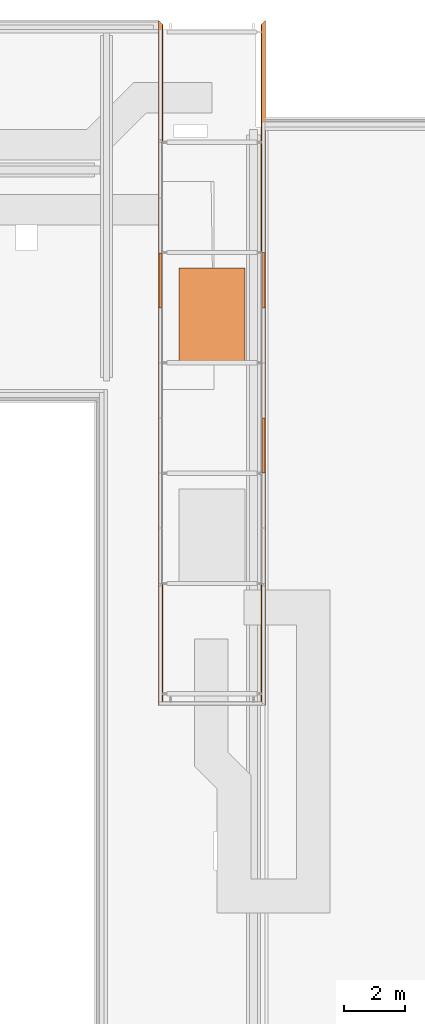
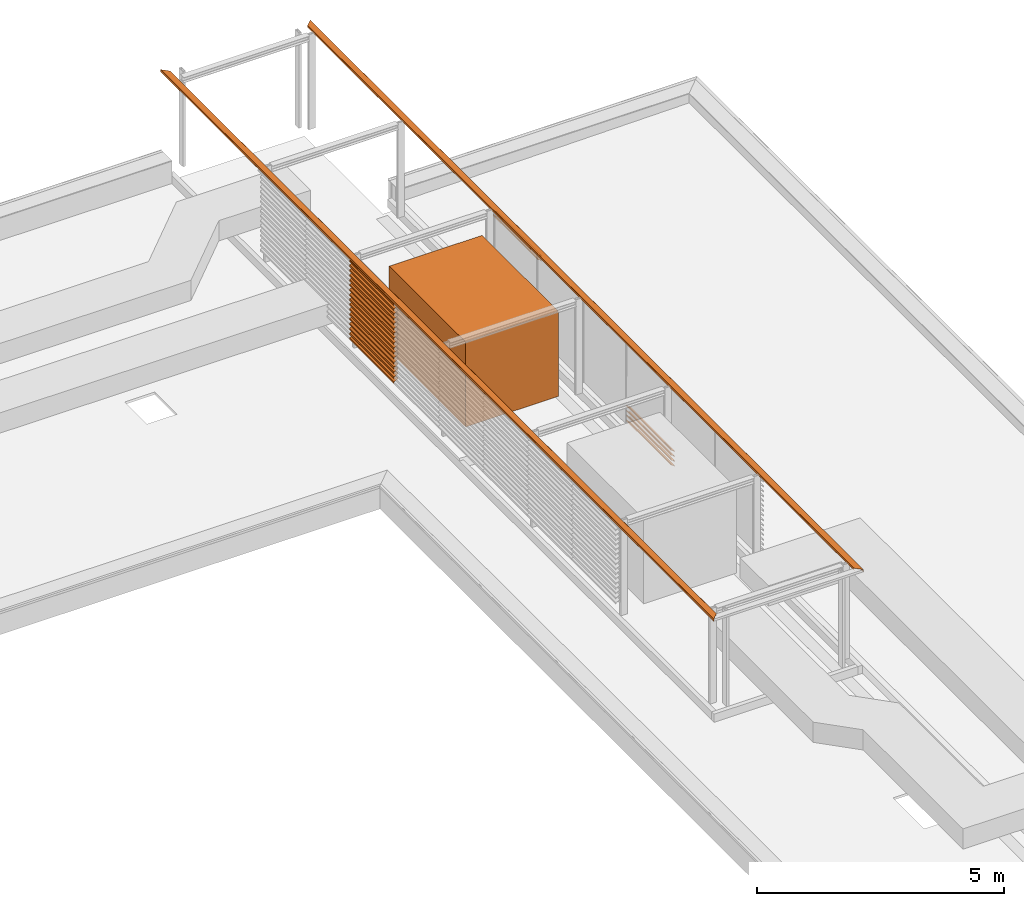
# One storey, part 25 of 32: 26 proxies.
"""IFC2X3 building model written with IfcOpenShell, lengths in millimetres."""

import ifcopenshell
import ifcopenshell.guid

model = None  # the IFC model being written
_history = None  # IfcOwnerHistory: only IFC2X3 demands one
_inside = {}  # id of a spatial element -> (the spatial element, [elements in it])
_under = {}  # id of a project, library or spatial element -> (it, [spatial elements below it])
_declared = {}  # id of a project -> (the project, [libraries it declares])
_typed = {}  # id of a type object -> (the type object, [elements of that type])
_made_of = {}  # id of a material, layer set ... -> (it, [elements and type objects made of it])


def new_model(schema):
    """Start an empty IFC model of exactly this schema.

    Asked for "IFC4X3", IfcOpenShell would pick the latest addendum, in which some entities
    have other attributes; the version numbers below select the first issue.
    IFC2X3 requires an IfcOwnerHistory on every rooted entity: one is made here for all.
    """
    global model, _history
    if schema == "IFC4X3":
        model = ifcopenshell.file(schema_version=(4, 3, 0, 0))
    else:
        model = ifcopenshell.file(schema=schema)
    _inside.clear()
    _under.clear()
    _declared.clear()
    _typed.clear()
    _made_of.clear()
    _history = None
    if model.schema == "IFC2X3":
        org = make("IfcOrganization", Name="unknown")
        user = make(
            "IfcPersonAndOrganization",
            ThePerson=make("IfcPerson", FamilyName="unknown"),
            TheOrganization=org,
        )
        app = make(
            "IfcApplication",
            ApplicationDeveloper=org,
            Version="unknown",
            ApplicationFullName="unknown",
            ApplicationIdentifier="unknown",
        )
        _history = make(
            "IfcOwnerHistory",
            OwningUser=user,
            OwningApplication=app,
            ChangeAction="ADDED",
            CreationDate=0,
        )
    return model


def make(cls, **values):
    """One entity of the class cls with the attributes given. An attribute that is None is left unset."""
    return model.create_entity(
        cls, **{name: value for name, value in values.items() if value is not None}
    )


def entity(cls, *values):
    """Any entity or typed value of the class cls, its attributes in the order of the schema. None: left unset."""
    e = model.create_entity(cls)
    for i, value in enumerate(values):
        if value is not None:
            e[i] = value
    return e


def rooted(cls, **values):
    """An entity with a GlobalId (a new one), such as an element, a storey or a relation."""
    return make(cls, GlobalId=ifcopenshell.guid.new(), OwnerHistory=_history, **values)


def si_unit(unit_type, name, prefix=None):
    """IfcSIUnit, for example si_unit("LENGTHUNIT", "METRE", prefix="MILLI")."""
    return make("IfcSIUnit", UnitType=unit_type, Prefix=prefix, Name=name)


def converted_unit(unit_type, name, factor, base, dimensions=None, offset=None):
    """IfcConversionBasedUnit, such as the inch: factor (a typed value) times the base unit."""
    return make(
        "IfcConversionBasedUnit"
        if offset is None
        else "IfcConversionBasedUnitWithOffset",
        ConversionOffset=offset,
        Dimensions=None
        if dimensions is None
        else entity("IfcDimensionalExponents", *dimensions),
        UnitType=unit_type,
        Name=name,
        ConversionFactor=make(
            "IfcMeasureWithUnit", ValueComponent=factor, UnitComponent=base
        ),
    )


def derived_unit(unit_type, elements):
    """IfcDerivedUnit: a product of units, each with its exponent."""
    return make(
        "IfcDerivedUnit",
        Elements=[
            make("IfcDerivedUnitElement", Unit=unit, Exponent=power)
            for unit, power in elements
        ],
        UnitType=unit_type,
    )


def assignment(units):
    """IfcUnitAssignment: the units of a project."""
    return None if units is None else make("IfcUnitAssignment", Units=units)


def point(xyz):
    """IfcCartesianPoint."""
    return None if xyz is None else make("IfcCartesianPoint", Coordinates=xyz)


def direction(xyz):
    """IfcDirection."""
    return None if xyz is None else make("IfcDirection", DirectionRatios=xyz)


def frame(location, z_axis=None, x_axis=None):
    """IfcAxis2Placement3D, a coordinate frame: its origin and axes. An axis left out is left unset."""
    return make(
        "IfcAxis2Placement3D",
        Location=point(location),
        Axis=direction(z_axis),
        RefDirection=direction(x_axis),
    )


def frame_2d(location, x_axis=None):
    """IfcAxis2Placement2D, a coordinate frame in the plane: its origin and x axis."""
    return make(
        "IfcAxis2Placement2D", Location=point(location), RefDirection=direction(x_axis)
    )


def origin():
    """The frame at (0, 0, 0) with its axes left unset."""
    return frame((0.0, 0.0, 0.0))


def place(relative_to, where):
    """IfcLocalPlacement: puts the frame where relative to a parent placement (None: the world)."""
    return make(
        "IfcLocalPlacement", PlacementRelTo=relative_to, RelativePlacement=where
    )


def context(
    kind, dimensions, precision=None, world=None, true_north=None, identifier=None
):
    """IfcGeometricRepresentationContext, for example the 3D "Model" context."""
    return make(
        "IfcGeometricRepresentationContext",
        ContextIdentifier=identifier,
        ContextType=kind,
        CoordinateSpaceDimension=dimensions,
        Precision=precision,
        WorldCoordinateSystem=world,
        TrueNorth=true_north,
    )


def subcontext(parent, identifier, kind, view, scale=None):
    """IfcGeometricRepresentationSubContext, for example "Body" below "Model"."""
    return make(
        "IfcGeometricRepresentationSubContext",
        ContextIdentifier=identifier,
        ContextType=kind,
        ParentContext=parent,
        TargetScale=scale,
        TargetView=view,
    )


def project(units=None, contexts=None):
    """IfcProject with its units and contexts."""
    return rooted(
        "IfcProject",
        Name="project",
        RepresentationContexts=contexts,
        UnitsInContext=assignment(units),
    )


def spatial(cls, under=None, at=None, **own):
    """A site, building, storey or space (cls), placed at a placement, below another one or the project."""
    s = rooted(cls, ObjectPlacement=at, **own)
    if under is not None:
        _under.setdefault(under.id(), (under, []))[1].append(s)
    return s


def polyline(points):
    """IfcPolyline through the points."""
    return make("IfcPolyline", Points=[point(p) for p in points])


def profile(cls, at=None, kind="AREA", **sizes):
    """A parametric profile (cls). Its sizes go by their IFC names, for example OverallWidth=200.0."""
    return make(cls, ProfileType=kind, Position=at, **sizes)


def rectangle(**sizes):
    """IfcRectangleProfileDef."""
    return profile("IfcRectangleProfileDef", **sizes)


def outline(outer, holes=None, kind="AREA"):
    """IfcArbitraryClosedProfileDef: a profile drawn as a closed curve; with holes, ...WithVoids."""
    if holes is None:
        return make("IfcArbitraryClosedProfileDef", ProfileType=kind, OuterCurve=outer)
    return make(
        "IfcArbitraryProfileDefWithVoids",
        ProfileType=kind,
        OuterCurve=outer,
        InnerCurves=holes,
    )


def extrude(swept, where, along, depth):
    """IfcExtrudedAreaSolid: the profile swept, set in the frame where, extruded along a direction by depth."""
    return make(
        "IfcExtrudedAreaSolid",
        SweptArea=swept,
        Position=where,
        ExtrudedDirection=direction(along),
        Depth=depth,
    )


def faces_of(points, faces, orient=None, outer=None):
    """IfcFace entities. A face is a list of loops; a loop is a list of indices into points, from 0.

    orient and outer hold one flag for each loop. By default every Orientation is true, the
    first loop of a face is its IfcFaceOuterBound and the others are IfcFaceBound.
    """
    made = []
    for i, loops in enumerate(faces):
        bounds = []
        for j, loop in enumerate(loops):
            is_outer = j == 0 if outer is None else outer[i][j]
            bounds.append(
                make(
                    "IfcFaceOuterBound" if is_outer else "IfcFaceBound",
                    Bound=make("IfcPolyLoop", Polygon=[points[k] for k in loop]),
                    Orientation=True if orient is None else orient[i][j],
                )
            )
        made.append(make("IfcFace", Bounds=bounds))
    return made


def faceted_brep(points, faces, orient=None, outer=None, voids=None):
    """IfcFacetedBrep: a solid bounded by flat faces; with voids (closed shells), ...WithVoids."""
    shared = [point(p) for p in points]
    hull = make("IfcClosedShell", CfsFaces=faces_of(shared, faces, orient, outer))
    if voids is None:
        return make("IfcFacetedBrep", Outer=hull)
    return make(
        "IfcFacetedBrepWithVoids",
        Outer=hull,
        Voids=[
            make(cls, CfsFaces=faces_of(shared, fs, o, b)) for cls, fs, o, b in voids
        ],
    )


def shape(context_of_items, identifier, shape_type, items):
    """IfcShapeRepresentation: the items that make up one representation, for example the "Body"."""
    return make(
        "IfcShapeRepresentation",
        ContextOfItems=context_of_items,
        RepresentationIdentifier=identifier,
        RepresentationType=shape_type,
        Items=items,
    )


def source(mapping_origin, context_of_items, identifier, shape_type, items):
    """IfcRepresentationMap: a shape defined once, which mapped items show again and again."""
    return make(
        "IfcRepresentationMap",
        MappingOrigin=mapping_origin,
        MappedRepresentation=shape(context_of_items, identifier, shape_type, items),
    )


def transform(
    local_origin,
    x_axis=None,
    y_axis=None,
    z_axis=None,
    scale=None,
    scale2=None,
    scale3=None,
    uniform=True,
):
    """IfcCartesianTransformationOperator3D, or its non-uniform kind. x_axis, y_axis, z_axis: its Axis1, 2, 3."""
    if uniform:
        return make(
            "IfcCartesianTransformationOperator3D",
            Axis1=direction(x_axis),
            Axis2=direction(y_axis),
            LocalOrigin=point(local_origin),
            Scale=scale,
            Axis3=direction(z_axis),
        )
    return make(
        "IfcCartesianTransformationOperator3DnonUniform",
        Axis1=direction(x_axis),
        Axis2=direction(y_axis),
        LocalOrigin=point(local_origin),
        Scale=scale,
        Axis3=direction(z_axis),
        Scale2=scale2,
        Scale3=scale3,
    )


def mapped(mapping_source, mapping_target):
    """IfcMappedItem: shows the shape of a source again, moved by a transform."""
    return make(
        "IfcMappedItem", MappingSource=mapping_source, MappingTarget=mapping_target
    )


def material(Name=None, Category=None):
    """IfcMaterial."""
    return make("IfcMaterial", Name=Name, Category=Category)


def made_of(thing, what):
    """Note that an element or type object is made of a material, layer set ...; save() writes the relation."""
    if what is not None:
        _made_of.setdefault(what.id(), (what, []))[1].append(thing)
    return thing


def type_object(cls, material=None, **own):
    """A type object (cls), such as IfcWallType, which elements share."""
    return made_of(rooted(cls, **own), material)


def type_shapes(of_type, sources):
    """Give a type object the sources (RepresentationMaps) that its elements show as mapped items."""
    of_type.RepresentationMaps = sources


def element(
    cls,
    number,
    at=None,
    inside=None,
    cuts=None,
    type_object=None,
    material=None,
    context=None,
    identifier="Body",
    shape_type=None,
    held_by="IfcProductDefinitionShape",
    body=None,
    shapes=None,
    **own,
):
    """One element of the class cls, such as IfcWall. Its Tag is "e" and its number.

    at: its placement. inside: the storey or other place that contains it. cuts: it is an
    opening in that element (IfcRelVoidsElement). A single representation is given by context,
    identifier, shape_type and body (its items); several are given by shapes. held_by: the class
    of the entity that holds the representations. save() writes the other relations.
    """
    e = rooted(cls, Tag="e%d" % number, ObjectPlacement=at, **own)
    if body is not None:
        shapes = [shape(context, identifier, shape_type, body)]
    if shapes is not None:
        e.Representation = make(held_by, Representations=shapes)
    if inside is not None:
        _inside.setdefault(inside.id(), (inside, []))[1].append(e)
    if cuts is not None:
        rooted(
            "IfcRelVoidsElement", RelatingBuildingElement=cuts, RelatedOpeningElement=e
        )
    if type_object is not None:
        _typed.setdefault(type_object.id(), (type_object, []))[1].append(e)
    return made_of(e, material)


def aggregate(whole, parts):
    """IfcRelAggregates: a whole, such as a stair, and the parts it consists of."""
    return rooted("IfcRelAggregates", RelatingObject=whole, RelatedObjects=parts)


def save(model, path):
    """Write the relations noted so far, then the file.

    IfcRelAggregates (storeys below a building ...), IfcRelContainedInSpatialStructure (elements
    in a storey), IfcRelDefinesByType, IfcRelAssociatesMaterial and IfcRelDeclares: one each for
    every whole, place, type object, material and project.
    """
    for whole, parts in _under.values():
        aggregate(whole, parts)
    for where, things in _inside.values():
        rooted(
            "IfcRelContainedInSpatialStructure",
            RelatedElements=things,
            RelatingStructure=where,
        )
    for kind, things in _typed.values():
        rooted("IfcRelDefinesByType", RelatedObjects=things, RelatingType=kind)
    for what, things in _made_of.values():
        rooted("IfcRelAssociatesMaterial", RelatedObjects=things, RelatingMaterial=what)
    for by, libraries in _declared.values():
        rooted("IfcRelDeclares", RelatingContext=by, RelatedDefinitions=libraries)
    model.write(path)


model = new_model("IFC2X3")

# Units and contexts
model_context = context("Model", 3, precision=0.01, world=origin(), true_north=direction((6.123031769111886e-17, 1.0)))
body_context = subcontext(model_context, "Body", "Model", "MODEL_VIEW")
ifc_project = project(units=[si_unit("LENGTHUNIT", "METRE", prefix="MILLI"), si_unit("AREAUNIT", "SQUARE_METRE"), si_unit("VOLUMEUNIT", "CUBIC_METRE"), converted_unit("PLANEANGLEUNIT", "DEGREE", entity("IfcRatioMeasure", 0.017453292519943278), si_unit("PLANEANGLEUNIT", "RADIAN"), dimensions=[0, 0, 0, 0, 0, 0, 0]), si_unit("MASSUNIT", "GRAM", prefix="KILO"), derived_unit("MASSDENSITYUNIT", [(si_unit("MASSUNIT", "GRAM", prefix="KILO"), 1), (si_unit("LENGTHUNIT", "METRE"), -3)]), derived_unit("IONCONCENTRATIONUNIT", [(si_unit("MASSUNIT", "GRAM", prefix="KILO"), 1), (si_unit("LENGTHUNIT", "METRE"), -3)]), derived_unit("MOMENTOFINERTIAUNIT", [(si_unit("LENGTHUNIT", "METRE"), 4)]), si_unit("TIMEUNIT", "SECOND"), si_unit("FREQUENCYUNIT", "HERTZ"), si_unit("THERMODYNAMICTEMPERATUREUNIT", "DEGREE_CELSIUS"), derived_unit("THERMALTRANSMITTANCEUNIT", [(si_unit("MASSUNIT", "GRAM", prefix="KILO"), 1), (si_unit("THERMODYNAMICTEMPERATUREUNIT", "KELVIN"), -1), (si_unit("TIMEUNIT", "SECOND"), -3)]), derived_unit("THERMALCONDUCTANCEUNIT", [(si_unit("MASSUNIT", "GRAM", prefix="KILO"), 1), (si_unit("THERMODYNAMICTEMPERATUREUNIT", "KELVIN"), -1), (si_unit("TIMEUNIT", "SECOND"), -3), (si_unit("LENGTHUNIT", "METRE"), 1)]), derived_unit("VOLUMETRICFLOWRATEUNIT", [(si_unit("LENGTHUNIT", "METRE"), 3), (si_unit("TIMEUNIT", "SECOND"), -1)]), derived_unit("MASSFLOWRATEUNIT", [(si_unit("MASSUNIT", "GRAM", prefix="KILO"), 1), (si_unit("TIMEUNIT", "SECOND"), -1)]), derived_unit("ROTATIONALFREQUENCYUNIT", [(si_unit("TIMEUNIT", "SECOND"), -1)]), si_unit("ELECTRICCURRENTUNIT", "AMPERE"), si_unit("ELECTRICVOLTAGEUNIT", "VOLT"), si_unit("POWERUNIT", "WATT"), si_unit("FORCEUNIT", "NEWTON", prefix="KILO"), si_unit("ILLUMINANCEUNIT", "LUX"), si_unit("LUMINOUSFLUXUNIT", "LUMEN"), si_unit("LUMINOUSINTENSITYUNIT", "CANDELA"), derived_unit("USERDEFINED", [(si_unit("MASSUNIT", "GRAM", prefix="KILO"), -1), (si_unit("LENGTHUNIT", "METRE"), -2), (si_unit("TIMEUNIT", "SECOND"), 3), (si_unit("LUMINOUSFLUXUNIT", "LUMEN"), 1)]), derived_unit("USERDEFINED", [(si_unit("MASSUNIT", "GRAM", prefix="KILO"), 1), (si_unit("TIMEUNIT", "SECOND"), -3), (si_unit("LENGTHUNIT", "METRE"), 3), (si_unit("ELECTRICCURRENTUNIT", "AMPERE"), -2)]), derived_unit("SOUNDPOWERUNIT", [(si_unit("MASSUNIT", "GRAM", prefix="KILO"), 1), (si_unit("TIMEUNIT", "SECOND"), -3), (si_unit("LENGTHUNIT", "METRE"), 2)]), derived_unit("SOUNDPRESSUREUNIT", [(si_unit("MASSUNIT", "GRAM", prefix="KILO"), 1), (si_unit("LENGTHUNIT", "METRE"), -1), (si_unit("TIMEUNIT", "SECOND"), -2)]), derived_unit("LINEARVELOCITYUNIT", [(si_unit("LENGTHUNIT", "METRE"), 1), (si_unit("TIMEUNIT", "SECOND"), -1)]), si_unit("PRESSUREUNIT", "PASCAL"), derived_unit("USERDEFINED", [(si_unit("MASSUNIT", "GRAM", prefix="KILO"), 1), (si_unit("LENGTHUNIT", "METRE"), -2), (si_unit("TIMEUNIT", "SECOND"), -2)]), derived_unit("LINEARFORCEUNIT", [(si_unit("MASSUNIT", "GRAM", prefix="KILO"), 1), (si_unit("TIMEUNIT", "SECOND"), -2)]), derived_unit("PLANARFORCEUNIT", [(si_unit("MASSUNIT", "GRAM", prefix="KILO"), 1), (si_unit("LENGTHUNIT", "METRE"), -1), (si_unit("TIMEUNIT", "SECOND"), -2)]), derived_unit("SPECIFICHEATCAPACITYUNIT", [(si_unit("THERMODYNAMICTEMPERATUREUNIT", "KELVIN"), -1), (si_unit("LENGTHUNIT", "METRE"), 2), (si_unit("TIMEUNIT", "SECOND"), -2)]), derived_unit("HEATINGVALUEUNIT", [(si_unit("LENGTHUNIT", "METRE"), 2), (si_unit("TIMEUNIT", "SECOND"), -2)]), derived_unit("VAPORPERMEABILITYUNIT", [(si_unit("LENGTHUNIT", "METRE"), -1), (si_unit("TIMEUNIT", "SECOND"), 1)]), derived_unit("DYNAMICVISCOSITYUNIT", [(si_unit("MASSUNIT", "GRAM", prefix="KILO"), 1), (si_unit("TIMEUNIT", "SECOND"), -1), (si_unit("LENGTHUNIT", "METRE"), -1)]), derived_unit("THERMALEXPANSIONCOEFFICIENTUNIT", [(si_unit("THERMODYNAMICTEMPERATUREUNIT", "KELVIN"), -1)]), derived_unit("MODULUSOFELASTICITYUNIT", [(si_unit("MASSUNIT", "GRAM", prefix="KILO"), 1), (si_unit("LENGTHUNIT", "METRE"), -1), (si_unit("TIMEUNIT", "SECOND"), -2)]), derived_unit("ISOTHERMALMOISTURECAPACITYUNIT", [(si_unit("LENGTHUNIT", "METRE"), 3), (si_unit("MASSUNIT", "GRAM", prefix="KILO"), -1)]), derived_unit("MOISTUREDIFFUSIVITYUNIT", [(si_unit("TIMEUNIT", "SECOND"), -1), (si_unit("LENGTHUNIT", "METRE"), 2)])], contexts=[model_context])

# Site, building, storey
site_placement = place(None, frame((0.0, 300.0, 0.0)))
site = spatial("IfcSite", under=ifc_project, at=site_placement, Name="<Kadastrale nummers>", CompositionType="ELEMENT")
building_placement = place(site_placement, origin())
building = spatial("IfcBuilding", under=site, at=building_placement, CompositionType="ELEMENT")
storey_placement = place(building_placement, frame((0.0, 0.0, 7150.000035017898)))
storey = spatial("IfcBuildingStorey", under=building, at=storey_placement, Name="02 tweede verdieping", CompositionType="ELEMENT", Elevation=7150.000035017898)

# Proxies
building_element_proxy_type_1 = type_object("IfcBuildingElementProxyType", Name="6285826", PredefinedType="NOTDEFINED")
proxy_1_placement = place(storey_placement, origin())
element("IfcBuildingElementProxy", 1, at=proxy_1_placement, inside=storey, type_object=building_element_proxy_type_1, Name="6285826", context=body_context, shape_type="SweptSolid", body=[
    extrude(outline(polyline([(20.10886047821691, -45.0), (60.108860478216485, -45.0), (58.75984344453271, -43.0), (21.383000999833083, -43.0), (-19.652072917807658, 45.0), (-59.89113952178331, 45.0), (-59.89113952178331, 43.0), (-20.92621343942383, 43.0), (20.10886047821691, -45.0)])), frame((41723.0, 40797.49999999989, 2480.108860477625), z_axis=(0.0, 1.0, 0.0), x_axis=(0.0, 0.0, -1.0)), (0.0, 0.0, 1.0), 1802.4999999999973),
])
building_element_proxy_type_2 = type_object("IfcBuildingElementProxyType", Name="6285827", PredefinedType="NOTDEFINED")
proxy_2_placement = place(storey_placement, origin())
element("IfcBuildingElementProxy", 2, at=proxy_2_placement, inside=storey, type_object=building_element_proxy_type_2, Name="6285827", context=body_context, shape_type="SweptSolid", body=[
    extrude(outline(polyline([(20.108860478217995, -45.0), (60.108860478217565, -45.0), (58.75984344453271, -43.0), (21.383000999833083, -43.0), (-19.652072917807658, 45.0), (-59.89113952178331, 45.0), (-59.89113952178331, 43.0), (-20.92621343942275, 43.0), (20.108860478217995, -45.0)])), frame((41723.0, 40797.49999999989, 2360.1088604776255), z_axis=(0.0, 1.0, 0.0), x_axis=(0.0, 0.0, -1.0)), (0.0, 0.0, 1.0), 1802.4999999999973),
])
building_element_proxy_type_3 = type_object("IfcBuildingElementProxyType", Name="6286812", PredefinedType="NOTDEFINED")
proxy_3_placement = place(storey_placement, origin())
element("IfcBuildingElementProxy", 3, at=proxy_3_placement, inside=storey, type_object=building_element_proxy_type_3, Name="6286812", context=body_context, shape_type="SweptSolid", body=[
    extrude(outline(polyline([(20.10886047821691, -45.0), (60.108860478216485, -45.0), (58.75984344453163, -43.0), (21.383000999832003, -43.0), (-19.65207291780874, 45.0), (-59.891139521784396, 45.0), (-59.891139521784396, 43.0), (-20.92621343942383, 43.0), (20.10886047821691, -45.0)])), frame((41723.0, 35400.0, 920.1088604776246), z_axis=(0.0, 1.0, 0.0), x_axis=(0.0, 0.0, -1.0)), (0.0, 0.0, 1.0), 1797.4999998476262),
])
building_element_proxy_type_4 = type_object("IfcBuildingElementProxyType", Name="6286813", PredefinedType="NOTDEFINED")
proxy_4_placement = place(storey_placement, origin())
element("IfcBuildingElementProxy", 4, at=proxy_4_placement, inside=storey, type_object=building_element_proxy_type_4, Name="6286813", context=body_context, shape_type="SweptSolid", body=[
    extrude(outline(polyline([(20.10886047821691, -45.0), (60.108860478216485, -45.0), (58.75984344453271, -43.0), (21.383000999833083, -43.0), (-19.652072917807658, 45.0), (-59.89113952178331, 45.0), (-59.89113952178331, 43.0), (-20.92621343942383, 43.0), (20.10886047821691, -45.0)])), frame((41723.0, 35400.0, 800.108860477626), z_axis=(0.0, 1.0, 0.0), x_axis=(0.0, 0.0, -1.0)), (0.0, 0.0, 1.0), 1797.4999998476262),
])
building_element_proxy_type_5 = type_object("IfcBuildingElementProxyType", Name="6286814", PredefinedType="NOTDEFINED")
proxy_5_placement = place(storey_placement, origin())
element("IfcBuildingElementProxy", 5, at=proxy_5_placement, inside=storey, type_object=building_element_proxy_type_5, Name="6286814", context=body_context, shape_type="SweptSolid", body=[
    extrude(outline(polyline([(20.108860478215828, -45.0), (60.1088604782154, -45.0), (58.75984344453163, -43.0), (21.383000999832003, -43.0), (-19.65207291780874, 45.0), (-59.891139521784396, 45.0), (-59.891139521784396, 43.0), (-20.926213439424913, 43.0), (20.108860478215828, -45.0)])), frame((41723.0, 35400.0, 680.1088604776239), z_axis=(0.0, 1.0, 0.0), x_axis=(0.0, 0.0, -1.0)), (0.0, 0.0, 1.0), 1797.4999998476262),
])
building_element_proxy_type_6 = type_object("IfcBuildingElementProxyType", Name="6286815", PredefinedType="NOTDEFINED")
proxy_6_placement = place(storey_placement, origin())
element("IfcBuildingElementProxy", 6, at=proxy_6_placement, inside=storey, type_object=building_element_proxy_type_6, Name="6286815", context=body_context, shape_type="SweptSolid", body=[
    extrude(outline(polyline([(20.10886047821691, -45.0), (60.108860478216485, -45.0), (58.75984344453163, -43.0), (21.383000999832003, -43.0), (-19.65207291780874, 45.0), (-59.891139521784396, 45.0), (-59.891139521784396, 43.0), (-20.92621343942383, 43.0), (20.10886047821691, -45.0)])), frame((41723.0, 35400.0, 560.1088604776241), z_axis=(0.0, 1.0, 0.0), x_axis=(0.0, 0.0, -1.0)), (0.0, 0.0, 1.0), 1797.4999998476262),
])
building_element_proxy_type_7 = type_object("IfcBuildingElementProxyType", Name="6287276", PredefinedType="NOTDEFINED")
proxy_7_placement = place(storey_placement, origin())
element("IfcBuildingElementProxy", 7, at=proxy_7_placement, inside=storey, type_object=building_element_proxy_type_7, Name="6287276", context=body_context, shape_type="SweptSolid", body=[
    extrude(outline(polyline([(-49.28222207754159, 0.7930049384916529), (-66.18695254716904, -35.45930654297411), (-63.80421773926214, -35.081918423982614), (-48.008081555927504, -1.2069950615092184), (49.08917531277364, -1.2069950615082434), (66.09493969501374, 35.26198434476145), (64.28232412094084, 36.10722086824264), (47.81503479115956, 0.7930049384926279), (-49.28222207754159, 0.7930049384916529)])), frame((38367.0, 40792.500000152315, 2480.108860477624), z_axis=(0.0, -1.0, 0.0), x_axis=(0.9063077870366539, 0.0, 0.4226182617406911)), (0.0, 0.0, -1.0), 1797.4999998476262),
])
building_element_proxy_type_8 = type_object("IfcBuildingElementProxyType", Name="6287277", PredefinedType="NOTDEFINED")
proxy_8_placement = place(storey_placement, origin())
element("IfcBuildingElementProxy", 8, at=proxy_8_placement, inside=storey, type_object=building_element_proxy_type_8, Name="6287277", context=body_context, shape_type="SweptSolid", body=[
    extrude(outline(polyline([(-49.282222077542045, 0.7930049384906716), (-66.18695254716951, -35.45930654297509), (-63.80421773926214, -35.081918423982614), (-48.008081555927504, -1.2069950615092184), (49.08917531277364, -1.2069950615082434), (66.09493969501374, 35.26198434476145), (64.28232412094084, 36.10722086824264), (47.8150347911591, 0.7930049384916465), (-49.282222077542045, 0.7930049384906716)])), frame((38367.0, 40792.500000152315, 2360.108860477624), z_axis=(0.0, -1.0, 0.0), x_axis=(0.9063077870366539, 0.0, 0.4226182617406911)), (0.0, 0.0, -1.0), 1797.4999998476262),
])
building_element_proxy_type_9 = type_object("IfcBuildingElementProxyType", Name="6287278", PredefinedType="NOTDEFINED")
proxy_9_placement = place(storey_placement, origin())
element("IfcBuildingElementProxy", 9, at=proxy_9_placement, inside=storey, type_object=building_element_proxy_type_9, Name="6287278", context=body_context, shape_type="SweptSolid", body=[
    extrude(outline(polyline([(-49.282222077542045, 0.7930049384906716), (-66.18695254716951, -35.45930654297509), (-63.8042177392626, -35.081918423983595), (-48.00808155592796, -1.2069950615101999), (49.089175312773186, -1.2069950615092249), (66.09493969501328, 35.26198434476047), (64.28232412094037, 36.10722086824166), (47.8150347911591, 0.7930049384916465), (-49.282222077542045, 0.7930049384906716)])), frame((38367.0, 40792.500000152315, 2240.1088604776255), z_axis=(0.0, -1.0, 0.0), x_axis=(0.9063077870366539, 0.0, 0.4226182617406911)), (0.0, 0.0, -1.0), 1797.4999998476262),
])
building_element_proxy_type_10 = type_object("IfcBuildingElementProxyType", Name="6287279", PredefinedType="NOTDEFINED")
proxy_10_placement = place(storey_placement, origin())
element("IfcBuildingElementProxy", 10, at=proxy_10_placement, inside=storey, type_object=building_element_proxy_type_10, Name="6287279", context=body_context, shape_type="SweptSolid", body=[
    extrude(outline(polyline([(-49.2822220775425, 0.7930049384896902), (-66.18695254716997, -35.45930654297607), (-63.80421773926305, -35.081918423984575), (-48.00808155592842, -1.2069950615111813), (49.08917531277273, -1.2069950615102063), (66.09493969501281, 35.26198434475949), (64.28232412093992, 36.107220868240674), (47.815034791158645, 0.7930049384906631), (-49.2822220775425, 0.7930049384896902)])), frame((38367.0, 40792.500000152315, 2120.108860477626), z_axis=(0.0, -1.0, 0.0), x_axis=(0.9063077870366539, 0.0, 0.4226182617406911)), (0.0, 0.0, -1.0), 1797.4999998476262),
])
building_element_proxy_type_11 = type_object("IfcBuildingElementProxyType", Name="6287280", PredefinedType="NOTDEFINED")
proxy_11_placement = place(storey_placement, origin())
element("IfcBuildingElementProxy", 11, at=proxy_11_placement, inside=storey, type_object=building_element_proxy_type_11, Name="6287280", context=body_context, shape_type="SweptSolid", body=[
    extrude(outline(polyline([(-49.2822220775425, 0.7930049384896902), (-66.18695254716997, -35.45930654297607), (-63.80421773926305, -35.081918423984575), (-48.00808155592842, -1.2069950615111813), (49.08917531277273, -1.2069950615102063), (66.09493969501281, 35.26198434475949), (64.28232412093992, 36.107220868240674), (47.815034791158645, 0.7930049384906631), (-49.2822220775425, 0.7930049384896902)])), frame((38367.0, 40792.500000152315, 2000.108860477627), z_axis=(0.0, -1.0, 0.0), x_axis=(0.9063077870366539, 0.0, 0.4226182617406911)), (0.0, 0.0, -1.0), 1797.4999998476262),
])
building_element_proxy_type_12 = type_object("IfcBuildingElementProxyType", Name="6287281", PredefinedType="NOTDEFINED")
proxy_12_placement = place(storey_placement, origin())
element("IfcBuildingElementProxy", 12, at=proxy_12_placement, inside=storey, type_object=building_element_proxy_type_12, Name="6287281", context=body_context, shape_type="SweptSolid", body=[
    extrude(outline(polyline([(-49.282222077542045, 0.7930049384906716), (-66.18695254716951, -35.45930654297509), (-63.8042177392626, -35.081918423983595), (-48.00808155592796, -1.2069950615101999), (49.089175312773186, -1.2069950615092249), (66.09493969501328, 35.26198434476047), (64.28232412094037, 36.10722086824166), (47.8150347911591, 0.7930049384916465), (-49.282222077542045, 0.7930049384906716)])), frame((38367.0, 40792.500000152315, 1880.108860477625), z_axis=(0.0, -1.0, 0.0), x_axis=(0.9063077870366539, 0.0, 0.4226182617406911)), (0.0, 0.0, -1.0), 1797.4999998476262),
])
building_element_proxy_type_13 = type_object("IfcBuildingElementProxyType", Name="6287282", PredefinedType="NOTDEFINED")
proxy_13_placement = place(storey_placement, origin())
element("IfcBuildingElementProxy", 13, at=proxy_13_placement, inside=storey, type_object=building_element_proxy_type_13, Name="6287282", context=body_context, shape_type="SweptSolid", body=[
    extrude(outline(polyline([(-49.282222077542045, 0.7930049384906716), (-66.18695254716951, -35.45930654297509), (-63.80421773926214, -35.081918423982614), (-48.008081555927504, -1.2069950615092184), (49.08917531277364, -1.2069950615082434), (66.09493969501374, 35.26198434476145), (64.28232412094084, 36.10722086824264), (47.8150347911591, 0.7930049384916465), (-49.282222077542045, 0.7930049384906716)])), frame((38367.0, 40792.500000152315, 1760.1088604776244), z_axis=(0.0, -1.0, 0.0), x_axis=(0.9063077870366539, 0.0, 0.4226182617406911)), (0.0, 0.0, -1.0), 1797.4999998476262),
])
building_element_proxy_type_14 = type_object("IfcBuildingElementProxyType", Name="6287283", PredefinedType="NOTDEFINED")
proxy_14_placement = place(storey_placement, origin())
element("IfcBuildingElementProxy", 14, at=proxy_14_placement, inside=storey, type_object=building_element_proxy_type_14, Name="6287283", context=body_context, shape_type="SweptSolid", body=[
    extrude(outline(polyline([(-49.28222207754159, 0.7930049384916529), (-66.18695254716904, -35.45930654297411), (-63.80421773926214, -35.081918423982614), (-48.008081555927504, -1.2069950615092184), (49.08917531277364, -1.2069950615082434), (66.09493969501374, 35.26198434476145), (64.28232412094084, 36.10722086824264), (47.81503479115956, 0.7930049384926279), (-49.28222207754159, 0.7930049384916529)])), frame((38367.0, 40792.500000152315, 1640.1088604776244), z_axis=(0.0, -1.0, 0.0), x_axis=(0.9063077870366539, 0.0, 0.4226182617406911)), (0.0, 0.0, -1.0), 1797.4999998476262),
])
building_element_proxy_type_15 = type_object("IfcBuildingElementProxyType", Name="6287284", PredefinedType="NOTDEFINED")
proxy_15_placement = place(storey_placement, origin())
element("IfcBuildingElementProxy", 15, at=proxy_15_placement, inside=storey, type_object=building_element_proxy_type_15, Name="6287284", context=body_context, shape_type="SweptSolid", body=[
    extrude(outline(polyline([(-49.282222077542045, 0.7930049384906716), (-66.18695254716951, -35.45930654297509), (-63.80421773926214, -35.081918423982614), (-48.008081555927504, -1.2069950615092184), (49.08917531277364, -1.2069950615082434), (66.09493969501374, 35.26198434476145), (64.28232412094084, 36.10722086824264), (47.8150347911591, 0.7930049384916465), (-49.282222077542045, 0.7930049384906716)])), frame((38367.0, 40792.500000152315, 1520.1088604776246), z_axis=(0.0, -1.0, 0.0), x_axis=(0.9063077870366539, 0.0, 0.4226182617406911)), (0.0, 0.0, -1.0), 1797.4999998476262),
])
building_element_proxy_type_16 = type_object("IfcBuildingElementProxyType", Name="6287285", PredefinedType="NOTDEFINED")
proxy_16_placement = place(storey_placement, origin())
element("IfcBuildingElementProxy", 16, at=proxy_16_placement, inside=storey, type_object=building_element_proxy_type_16, Name="6287285", context=body_context, shape_type="SweptSolid", body=[
    extrude(outline(polyline([(-49.282222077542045, 0.7930049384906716), (-66.18695254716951, -35.45930654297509), (-63.8042177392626, -35.081918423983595), (-48.00808155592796, -1.2069950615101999), (49.089175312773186, -1.2069950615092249), (66.09493969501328, 35.26198434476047), (64.28232412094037, 36.10722086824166), (47.8150347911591, 0.7930049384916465), (-49.282222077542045, 0.7930049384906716)])), frame((38367.0, 40792.500000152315, 1400.108860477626), z_axis=(0.0, -1.0, 0.0), x_axis=(0.9063077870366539, 0.0, 0.4226182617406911)), (0.0, 0.0, -1.0), 1797.4999998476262),
])
building_element_proxy_type_17 = type_object("IfcBuildingElementProxyType", Name="6287286", PredefinedType="NOTDEFINED")
proxy_17_placement = place(storey_placement, origin())
element("IfcBuildingElementProxy", 17, at=proxy_17_placement, inside=storey, type_object=building_element_proxy_type_17, Name="6287286", context=body_context, shape_type="SweptSolid", body=[
    extrude(outline(polyline([(-49.2822220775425, 0.7930049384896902), (-66.18695254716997, -35.45930654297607), (-63.80421773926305, -35.081918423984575), (-48.00808155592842, -1.2069950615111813), (49.08917531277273, -1.2069950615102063), (66.09493969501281, 35.26198434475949), (64.28232412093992, 36.107220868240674), (47.815034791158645, 0.7930049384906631), (-49.2822220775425, 0.7930049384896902)])), frame((38367.0, 40792.500000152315, 1280.1088604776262), z_axis=(0.0, -1.0, 0.0), x_axis=(0.9063077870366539, 0.0, 0.4226182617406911)), (0.0, 0.0, -1.0), 1797.4999998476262),
])
building_element_proxy_type_18 = type_object("IfcBuildingElementProxyType", Name="6287287", PredefinedType="NOTDEFINED")
proxy_18_placement = place(storey_placement, origin())
element("IfcBuildingElementProxy", 18, at=proxy_18_placement, inside=storey, type_object=building_element_proxy_type_18, Name="6287287", context=body_context, shape_type="SweptSolid", body=[
    extrude(outline(polyline([(-49.2822220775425, 0.7930049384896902), (-66.18695254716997, -35.45930654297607), (-63.8042177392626, -35.081918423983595), (-48.00808155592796, -1.2069950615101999), (49.089175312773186, -1.2069950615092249), (66.09493969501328, 35.26198434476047), (64.28232412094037, 36.10722086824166), (47.815034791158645, 0.7930049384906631), (-49.2822220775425, 0.7930049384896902)])), frame((38367.0, 40792.500000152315, 1160.1088604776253), z_axis=(0.0, -1.0, 0.0), x_axis=(0.9063077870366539, 0.0, 0.4226182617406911)), (0.0, 0.0, -1.0), 1797.4999998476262),
])
building_element_proxy_type_19 = type_object("IfcBuildingElementProxyType", Name="6287288", PredefinedType="NOTDEFINED")
proxy_19_placement = place(storey_placement, origin())
element("IfcBuildingElementProxy", 19, at=proxy_19_placement, inside=storey, type_object=building_element_proxy_type_19, Name="6287288", context=body_context, shape_type="SweptSolid", body=[
    extrude(outline(polyline([(-49.282222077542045, 0.7930049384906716), (-66.18695254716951, -35.45930654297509), (-63.8042177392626, -35.081918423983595), (-48.00808155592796, -1.2069950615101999), (49.089175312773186, -1.2069950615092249), (66.09493969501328, 35.26198434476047), (64.28232412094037, 36.10722086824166), (47.8150347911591, 0.7930049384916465), (-49.282222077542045, 0.7930049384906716)])), frame((38367.0, 40792.500000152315, 1040.1088604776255), z_axis=(0.0, -1.0, 0.0), x_axis=(0.9063077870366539, 0.0, 0.4226182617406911)), (0.0, 0.0, -1.0), 1797.4999998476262),
])
building_element_proxy_type_20 = type_object("IfcBuildingElementProxyType", Name="6287289", PredefinedType="NOTDEFINED")
proxy_20_placement = place(storey_placement, origin())
element("IfcBuildingElementProxy", 20, at=proxy_20_placement, inside=storey, type_object=building_element_proxy_type_20, Name="6287289", context=body_context, shape_type="SweptSolid", body=[
    extrude(outline(polyline([(-49.282222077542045, 0.7930049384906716), (-66.18695254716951, -35.45930654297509), (-63.80421773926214, -35.081918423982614), (-48.008081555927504, -1.2069950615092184), (49.08917531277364, -1.2069950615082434), (66.09493969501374, 35.26198434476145), (64.28232412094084, 36.10722086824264), (47.8150347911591, 0.7930049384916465), (-49.282222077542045, 0.7930049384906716)])), frame((38367.0, 40792.500000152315, 920.1088604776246), z_axis=(0.0, -1.0, 0.0), x_axis=(0.9063077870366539, 0.0, 0.4226182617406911)), (0.0, 0.0, -1.0), 1797.4999998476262),
])
building_element_proxy_type_21 = type_object("IfcBuildingElementProxyType", Name="6287290", PredefinedType="NOTDEFINED")
proxy_21_placement = place(storey_placement, origin())
element("IfcBuildingElementProxy", 21, at=proxy_21_placement, inside=storey, type_object=building_element_proxy_type_21, Name="6287290", context=body_context, shape_type="SweptSolid", body=[
    extrude(outline(polyline([(-49.28222207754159, 0.7930049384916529), (-66.18695254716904, -35.45930654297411), (-63.80421773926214, -35.081918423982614), (-48.008081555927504, -1.2069950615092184), (49.08917531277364, -1.2069950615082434), (66.09493969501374, 35.26198434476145), (64.28232412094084, 36.10722086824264), (47.81503479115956, 0.7930049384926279), (-49.28222207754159, 0.7930049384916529)])), frame((38367.0, 40792.500000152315, 800.1088604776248), z_axis=(0.0, -1.0, 0.0), x_axis=(0.9063077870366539, 0.0, 0.4226182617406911)), (0.0, 0.0, -1.0), 1797.4999998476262),
])
building_element_proxy_type_22 = type_object("IfcBuildingElementProxyType", Name="6287291", PredefinedType="NOTDEFINED")
proxy_22_placement = place(storey_placement, origin())
element("IfcBuildingElementProxy", 22, at=proxy_22_placement, inside=storey, type_object=building_element_proxy_type_22, Name="6287291", context=body_context, shape_type="SweptSolid", body=[
    extrude(outline(polyline([(-49.282222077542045, 0.7930049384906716), (-66.18695254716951, -35.45930654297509), (-63.8042177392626, -35.081918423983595), (-48.00808155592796, -1.2069950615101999), (49.089175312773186, -1.2069950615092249), (66.09493969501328, 35.26198434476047), (64.28232412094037, 36.10722086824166), (47.8150347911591, 0.7930049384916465), (-49.282222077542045, 0.7930049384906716)])), frame((38367.0, 40792.500000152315, 680.1088604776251), z_axis=(0.0, -1.0, 0.0), x_axis=(0.9063077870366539, 0.0, 0.4226182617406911)), (0.0, 0.0, -1.0), 1797.4999998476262),
])
building_element_proxy_type_23 = type_object("IfcBuildingElementProxyType", Name="6287292", PredefinedType="NOTDEFINED")
proxy_23_placement = place(storey_placement, origin())
element("IfcBuildingElementProxy", 23, at=proxy_23_placement, inside=storey, type_object=building_element_proxy_type_23, Name="6287292", context=body_context, shape_type="SweptSolid", body=[
    extrude(outline(polyline([(-49.2822220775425, 0.7930049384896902), (-66.18695254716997, -35.45930654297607), (-63.8042177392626, -35.081918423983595), (-48.00808155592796, -1.2069950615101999), (49.089175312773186, -1.2069950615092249), (66.09493969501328, 35.26198434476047), (64.28232412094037, 36.10722086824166), (47.815034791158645, 0.7930049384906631), (-49.2822220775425, 0.7930049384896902)])), frame((38367.0, 40792.500000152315, 560.1088604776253), z_axis=(0.0, -1.0, 0.0), x_axis=(0.9063077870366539, 0.0, 0.4226182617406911)), (0.0, 0.0, -1.0), 1797.4999998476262),
])
ifc_material_1 = material(Name="<Unnamed>")
building_element_proxy_type_24 = type_object("IfcBuildingElementProxyType", Name="LBK1:LBK", PredefinedType="NOTDEFINED", material=ifc_material_1)
shared_shape_1 = source(origin(), body_context, "Body", "SweptSolid", [
    extrude(rectangle(XDim=3089.999999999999, YDim=2170.0000000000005, at=frame_2d((0.0, -4.320099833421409e-12), x_axis=(1.0, 0.0))), frame((40045.0, 33345.0, 7150.000035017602), z_axis=(0.0, 0.0, 1.0), x_axis=(0.0, 1.0, 0.0)), (0.0, 0.0, 1.0), 2100.0),
])
type_shapes(building_element_proxy_type_24, [shared_shape_1])
proxy_24_placement = place(storey_placement, frame((0.0, 7200.0, -6860.000070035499)))
element("IfcBuildingElementProxy", 24, at=proxy_24_placement, inside=storey, type_object=building_element_proxy_type_24, material=ifc_material_1, Name="LBK1:LBK", ObjectType="LBK1:LBK", context=body_context, shape_type="MappedRepresentation", body=[
    mapped(shared_shape_1, transform((0.0, 0.0, 0.0), scale=1.0)),
])
ifc_material_2 = material(Name="STAAL_RAL 7006")
building_element_proxy_type_25 = type_object("IfcBuildingElementProxyType", Name="NLRS_42_GM_WPB_dakrand_afdekkap_gen_ISR:afdekkap", PredefinedType="NOTDEFINED", material=ifc_material_2)
shared_shape_2 = source(origin(), body_context, "Body", "Brep", [
    faceted_brep([(11192.0, 0.0, 13.0), (11191.623489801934, -0.3765101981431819, 13.781831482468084), (11191.0, -1.0, 14.0), (11053.0, -139.0, 14.0), (11052.21816851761, -139.7818314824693, 13.623489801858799), (11052.0, -140.0, 13.0), (11052.0, -140.0, -39.696774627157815), (11052.475023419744, -139.52497658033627, -40.547891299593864), (11053.258819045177, -138.74118095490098, -40.66270045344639), (11063.252085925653, -128.74791407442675, -37.985012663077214), (11063.959192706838, -128.04080729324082, -36.76026779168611), (11062.734447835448, -129.26555216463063, -36.05316101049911), (11055.258819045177, -136.7411809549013, -38.05624970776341), (11054.313758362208, -137.68624163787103, -37.81769752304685), (11054.0, -138.0, -37.0903238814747), (11054.0, -138.0, 11.0), (11054.376510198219, -137.6234898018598, 11.781831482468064), (11055.0, -137.0, 12.0), (11189.0, -3.0, 12.0), (11189.781831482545, -2.218168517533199, 11.62348980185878), (11190.0, -2.0, 11.0), (11190.0, -2.0, -37.090323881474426), (11189.524976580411, -2.475023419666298, -37.94144055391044), (11188.741180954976, -3.2588190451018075, -38.05624970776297), (11181.265552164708, -10.734447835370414, -36.05316101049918), (11180.040807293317, -11.959192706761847, -36.76026779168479), (11180.747914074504, -11.252085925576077, -37.98501266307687), (11190.741180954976, -1.2588190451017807, -40.66270045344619), (11191.686241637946, -0.3137583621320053, -40.4241482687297), (11192.0, 0.0, -39.696774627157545), (-11055.258819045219, -136.7411809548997, -38.05624970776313), (-11054.313758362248, -137.68624163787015, -37.81769752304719), (-11054.0, -138.0, -37.090323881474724), (-11052.475023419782, -139.52497658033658, -40.54789129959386), (-11052.0, -140.0, -39.69677462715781), (-11053.258819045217, -138.74118095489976, -40.662700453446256), (-11052.0, -140.0, 13.0), (-11052.21816851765, -139.781831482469, 13.623489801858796), (-11053.0, -139.0, 14.0), (-11054.0, -138.0, 11.0), (-11054.376510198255, -137.6234898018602, 11.781831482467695), (-11055.0, -137.0, 12.0), (-11191.0, -1.0, 14.0), (-11191.781831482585, -0.2181685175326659, 13.623489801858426), (-11192.0, 0.0, 13.0), (-11192.0, 0.0, -39.69677462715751), (-11191.524976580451, -0.4750234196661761, -40.547891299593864), (-11190.741180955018, -1.2588190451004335, -40.66270045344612), (-11180.747914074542, -11.252085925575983, -37.98501266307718), (-11180.040807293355, -11.959192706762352, -36.7602677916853), (-11181.265552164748, -10.734447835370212, -36.053161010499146), (-11188.741180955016, -3.2588190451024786, -38.05624970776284), (-11189.686241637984, -2.313758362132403, -37.81769752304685), (-11190.0, -2.0, -37.090323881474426), (-11190.0, -2.0, 11.0), (-11189.623489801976, -2.3765101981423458, 11.781831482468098), (-11189.0, -3.0, 12.0), (-11062.73444783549, -129.26555216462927, -36.05316101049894), (-11063.959192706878, -128.04080729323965, -36.76026779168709), (-11063.252085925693, -128.7479140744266, -37.98501266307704)], [[[0, 1, 2, 3, 4, 5, 6, 7, 8, 9, 10, 11, 12, 13, 14, 15, 16, 17, 18, 19, 20, 21, 22, 23, 24, 25, 26, 27, 28, 29]], [[30, 31, 13, 12]], [[13, 31, 32, 14]], [[33, 7, 6, 34]], [[35, 8, 7, 33]], [[6, 5, 36, 34]], [[37, 4, 3, 38]], [[36, 5, 4, 37]], [[39, 40, 16, 15]], [[16, 40, 41, 17]], [[15, 14, 32, 39]], [[42, 43, 44, 45, 46, 47, 48, 49, 50, 51, 52, 53, 54, 55, 56, 41, 40, 39, 32, 31, 30, 57, 58, 59, 35, 33, 34, 36, 37, 38]], [[0, 29, 45, 44]], [[43, 0, 44]], [[1, 0, 43]], [[42, 2, 1]], [[43, 42, 1]], [[3, 2, 42, 38]], [[18, 17, 41, 56]], [[56, 55, 18]], [[18, 55, 19]], [[19, 54, 20]], [[54, 19, 55]], [[20, 54, 53, 21]], [[8, 35, 59, 9]], [[58, 10, 9, 59]], [[57, 11, 10, 58]], [[12, 11, 57, 30]], [[53, 52, 21]], [[21, 52, 22]], [[22, 51, 23]], [[51, 22, 52]], [[46, 27, 47]], [[28, 27, 46]], [[45, 29, 28]], [[46, 45, 28]], [[23, 51, 50, 24]], [[26, 48, 47, 27]], [[49, 25, 24, 50]], [[48, 26, 25, 49]]]),
])
type_shapes(building_element_proxy_type_25, [shared_shape_2])
for number, where, z_axis, x_axis, name in (
    (25, (41792.0, 39000.0, 2549.9999649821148), (0.0, 0.0, 1.0), (0.0, -1.0, 0.0), "NLRS_42_GM_WPB_dakrand_afdekkap_gen_ISR:afdekkap"),
    (26, (38298.0, 39000.0, 2549.9999649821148), (0.0, 0.0, 1.0), (0.0, 1.0, 0.0), "NLRS_42_GM_WPB_dakrand_afdekkap_gen_ISR:afdekkap"),
):
    element("IfcBuildingElementProxy", number, at=place(storey_placement, frame(where, z_axis=z_axis, x_axis=x_axis)), inside=storey, type_object=building_element_proxy_type_25, material=ifc_material_2, Name=name, ObjectType="NLRS_42_GM_WPB_dakrand_afdekkap_gen_ISR:afdekkap", context=body_context, shape_type="MappedRepresentation", body=[
        mapped(shared_shape_2, transform((0.0, 0.0, 0.0), scale=1.0)),
    ])

save(model, "model.ifc")
